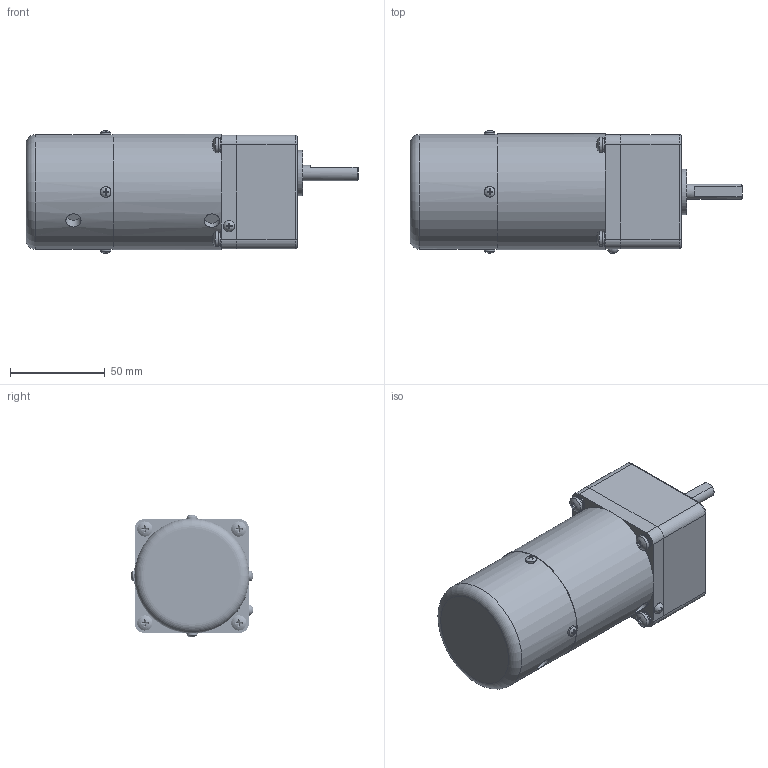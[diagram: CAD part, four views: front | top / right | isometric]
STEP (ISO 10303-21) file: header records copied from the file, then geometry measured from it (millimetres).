
FILE_DESCRIPTION(/* description */ (''),/* implementation_level */ '2;1');
FILE_NAME(/* name */ '60矮箱L-6W刹车.stp',/* time_stamp */ '2022-10-31T08:16:34+08:00',/* author */ (''),/* organization */ (''),/* preprocessor_version */ 'ST-DEVELOPER v16.7',/* originating_system */ 'SIEMENS PLM Software NX 1899',/* authorisation */ '');
FILE_SCHEMA (('AP203_CONFIGURATION_CONTROLLED_3D_DESIGN_OF_MECHANICAL_PARTS_AND_ASSEMBLIES_MIM_LF { 1 0 10303 403 2 1 2}'));
Products named in the file (1): yf186188FEB6lbx7
Bounding box: 175 x 64.82 x 64.66 mm (x, y, z)
Volume: 443082 mm3; surface area: 50001.8 mm2
Topology: 14 solids, 15 shells, 362 faces, 932 edges, 616 vertices
Faces by surface type: plane 173, bspline 92, cylinder 75, torus 11, sphere 6, cone 5
Full cylindrical faces by diameter (mm): 3 x1, 3.838 x4, 4 x4, 4.3 x4, 5.6 x4, 6 x5, 8 x10, 8.2 x1, 24 x1, 52.6 x1, 57 x2, 60.5 x1, 61 x1
Entity records: 63276 total; most frequent: CARTESIAN_POINT 55192, ORIENTED_EDGE 1658, DIRECTION 1292, EDGE_CURVE 829, VERTEX_POINT 570, AXIS2_PLACEMENT_3D 506, EDGE_LOOP 467, ADVANCED_FACE 362
